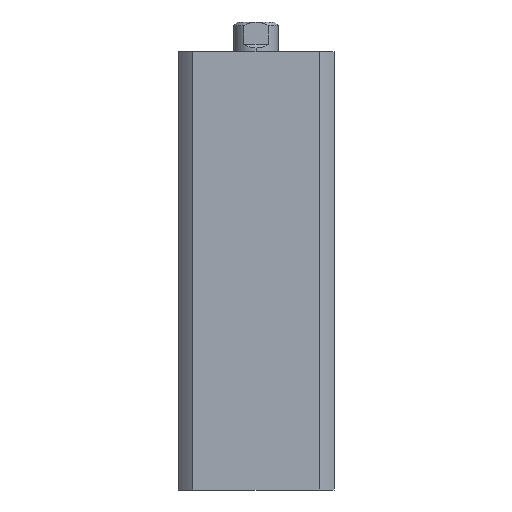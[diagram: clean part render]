
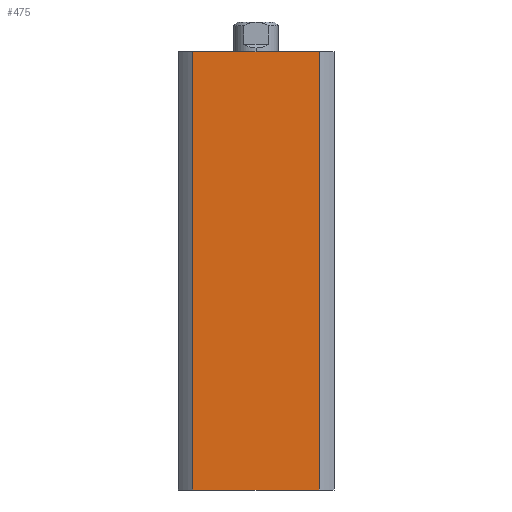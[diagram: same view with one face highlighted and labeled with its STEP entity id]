
A CAD part, left-side view. The second image highlights one B-rep face of the part: STEP entity #475.
In plain terms, the highlighted planar face has unit normal (-1, 0, 0).
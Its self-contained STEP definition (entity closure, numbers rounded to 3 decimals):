
#51 = EDGE_LOOP ( 'NONE', ( #834, #835, #836, #837 ) ) ;
#475 = ADVANCED_FACE ( 'NONE', ( #4000 ), #2756, .F. ) ;
#639 = EDGE_CURVE ( 'NONE', #1576, #1579, #4864, .T. ) ;
#677 = EDGE_CURVE ( 'NONE', #1575, #1601, #4904, .T. ) ;
#685 = EDGE_CURVE ( 'NONE', #1601, #1579, #4920, .T. ) ;
#686 = EDGE_CURVE ( 'NONE', #1576, #1575, #4922, .T. ) ;
#834 = ORIENTED_EDGE ( 'NONE', *, *, #685, .F. ) ;
#835 = ORIENTED_EDGE ( 'NONE', *, *, #677, .F. ) ;
#836 = ORIENTED_EDGE ( 'NONE', *, *, #686, .F. ) ;
#837 = ORIENTED_EDGE ( 'NONE', *, *, #639, .T. ) ;
#1575 = VERTEX_POINT ( 'NONE', #3214 ) ;
#1576 = VERTEX_POINT ( 'NONE', #3215 ) ;
#1579 = VERTEX_POINT ( 'NONE', #3218 ) ;
#1601 = VERTEX_POINT ( 'NONE', #3240 ) ;
#1819 = DIRECTION ( 'NONE',  ( 0., -1., 0. ) ) ;
#1823 = CARTESIAN_POINT ( 'NONE',  ( -21., 21., 0. ) ) ;
#2749 = CARTESIAN_POINT ( 'NONE',  ( -21., 21., 118. ) ) ;
#2756 = PLANE ( 'NONE',  #4151 ) ;
#2758 = DIRECTION ( 'NONE',  ( 1., 0., 0. ) ) ;
#2759 = DIRECTION ( 'NONE',  ( 0., 1., 0. ) ) ;
#3081 = DIRECTION ( 'NONE',  ( 0., -1., 0. ) ) ;
#3087 = CARTESIAN_POINT ( 'NONE',  ( -21., 21., 118. ) ) ;
#3108 = CARTESIAN_POINT ( 'NONE',  ( -21., -16.971, 118. ) ) ;
#3109 = DIRECTION ( 'NONE',  ( 0., 0., -1. ) ) ;
#3110 = CARTESIAN_POINT ( 'NONE',  ( -21., 16.971, 118. ) ) ;
#3111 = DIRECTION ( 'NONE',  ( 0., 0., 1. ) ) ;
#3214 = CARTESIAN_POINT ( 'NONE',  ( -21., 16.971, 118. ) ) ;
#3215 = CARTESIAN_POINT ( 'NONE',  ( -21., 16.971, 0. ) ) ;
#3218 = CARTESIAN_POINT ( 'NONE',  ( -21., -16.971, 0. ) ) ;
#3240 = CARTESIAN_POINT ( 'NONE',  ( -21., -16.971, 118. ) ) ;
#4000 = FACE_OUTER_BOUND ( 'NONE', #51, .T. ) ;
#4151 = AXIS2_PLACEMENT_3D ( 'NONE', #2749, #2758, #2759 ) ;
#4864 = LINE ( 'NONE', #1823, #4866 ) ;
#4866 = VECTOR ( 'NONE', #1819, 1000. ) ;
#4904 = LINE ( 'NONE', #3087, #4909 ) ;
#4909 = VECTOR ( 'NONE', #3081, 1000. ) ;
#4920 = LINE ( 'NONE', #3108, #4923 ) ;
#4922 = LINE ( 'NONE', #3110, #4925 ) ;
#4923 = VECTOR ( 'NONE', #3109, 1000. ) ;
#4925 = VECTOR ( 'NONE', #3111, 1000. ) ;
